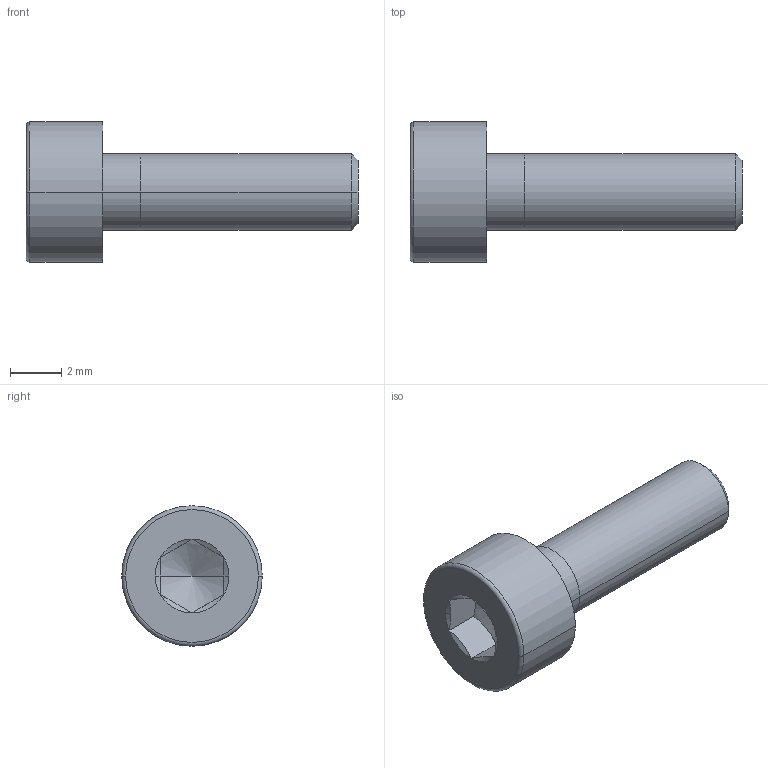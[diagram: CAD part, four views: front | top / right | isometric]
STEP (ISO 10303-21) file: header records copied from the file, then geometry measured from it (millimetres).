
FILE_DESCRIPTION(/* description */ ('VariCAD 2010-1.04 AP-203'),/* implementation_level */ '2;1');
FILE_NAME(/* name */ '0353-97-12',/* time_stamp */ '2010-01-13T15:03:24-07:00',/* author */ (''),/* organization */ (''),/* preprocessor_version */ 'ST-DEVELOPER v12',/* originating_system */ 'VariCAD 2010-1.04; kernel version (20090520)',/* authorisation */ '');
FILE_SCHEMA (('CONFIG_CONTROL_DESIGN'));
Length unit declared in the file: millimetre
Products named in the file (1): Part
Bounding box: 13 x 5.5 x 5.5 mm (x, y, z)
Volume: 132.5 mm3; surface area: 339.6 mm2
Topology: 2 solids, 2 shells, 35 faces, 80 edges, 49 vertices
Faces by surface type: cone 12, plane 11, cylinder 10, torus 2
Entity records: 1074 total; most frequent: CARTESIAN_POINT 245, DIRECTION 170, ORIENTED_EDGE 156, EDGE_CURVE 78, AXIS2_PLACEMENT_3D 70, VERTEX_POINT 49, EDGE_LOOP 39, ADVANCED_FACE 35
